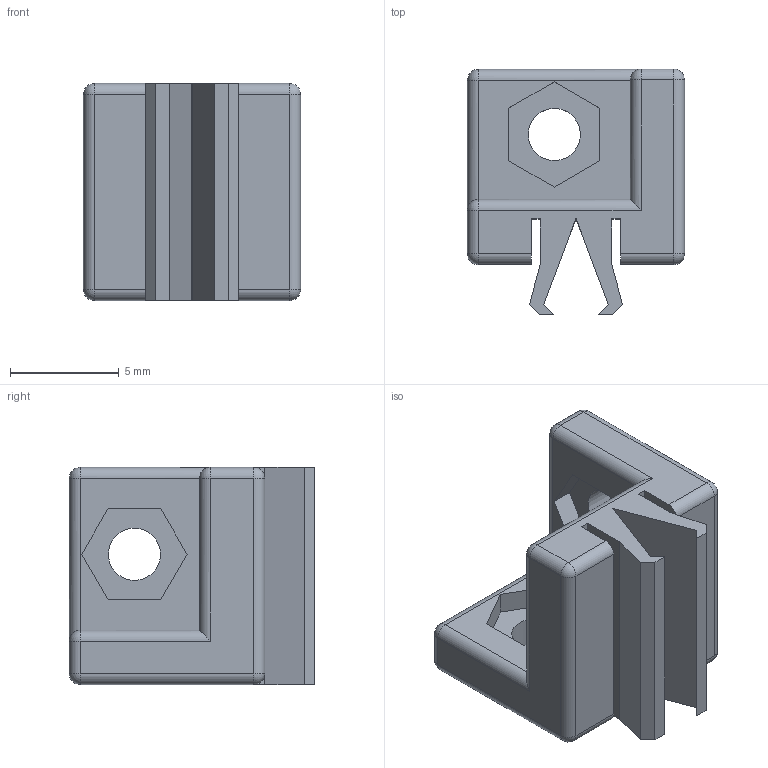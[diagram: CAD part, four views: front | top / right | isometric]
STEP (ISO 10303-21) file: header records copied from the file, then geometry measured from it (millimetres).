
FILE_DESCRIPTION(/* description */ (''),/* implementation_level */ '2;1');
FILE_NAME(/* name */ 'C:/Users/priba/Downloads/Brick1x1l4l6.step',/* time_stamp */ '2022-04-03T10:22:21+02:00',/* author */ (''),/* organization */ (''),/* preprocessor_version */ 'ST-DEVELOPER v18.1',/* originating_system */ 'Autodesk Translation Framework v10.13.0.1454',/* authorisation */ '');
FILE_SCHEMA (('AUTOMOTIVE_DESIGN { 1 0 10303 214 3 1 1 }'));
Length unit declared in the file: millimetre
Products named in the file (1): Brick1x1l4l6
Bounding box: 10 x 11.31 x 10 mm (x, y, z)
Volume: 511.5 mm3; surface area: 778.3 mm2
Topology: 1 solids, 1 shells, 73 faces, 174 edges, 105 vertices
Faces by surface type: plane 41, cylinder 22, sphere 10
Full cylindrical faces by diameter (mm): 2.4 x2
Entity records: 2095 total; most frequent: DIRECTION 363, CARTESIAN_POINT 353, ORIENTED_EDGE 348, EDGE_CURVE 174, LINE 133, VECTOR 133, AXIS2_PLACEMENT_3D 115, VERTEX_POINT 105
